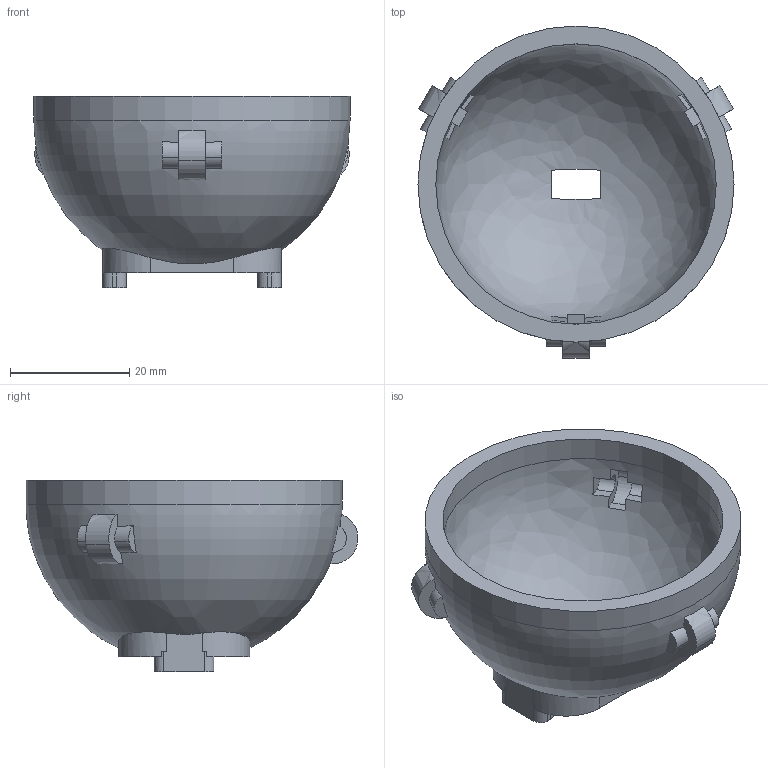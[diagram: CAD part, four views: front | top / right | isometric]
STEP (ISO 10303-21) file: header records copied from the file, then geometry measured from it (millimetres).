
FILE_DESCRIPTION(('Open CASCADE Model'),'2;1');
FILE_NAME('Open CASCADE Shape Model','2026-05-31T19:43:38',('Author'),( 'Open CASCADE'),'Open CASCADE STEP processor 7.6','Open CASCADE 7.6' ,'Unknown');
FILE_SCHEMA(('AP242_MANAGED_MODEL_BASED_3D_ENGINEERING_MIM_LF. {1 0 10303 442 1 1 4 }'));
Length unit declared in the file: millimetre
Products named in the file (1): Open CASCADE STEP translator 7.6 9
Bounding box: 53 x 55.64 x 32.1 mm (x, y, z)
Volume: 13993.9 mm3; surface area: 10670.1 mm2
Topology: 1 solids, 1 shells, 140 faces, 392 edges, 260 vertices
Faces by surface type: plane 74, extrusion 36, cylinder 22, bspline 4, revolution 2, cone 2
Full cylindrical faces by diameter (mm): 2.05 x2, 47 x1, 53 x1
Entity records: 19573 total; most frequent: CARTESIAN_POINT 12152, DIRECTION 1248, ORIENTED_EDGE 780, PCURVE 780, DEFINITIONAL_REPRESENTATION 780, VECTOR 658, LINE 622, EDGE_CURVE 390
